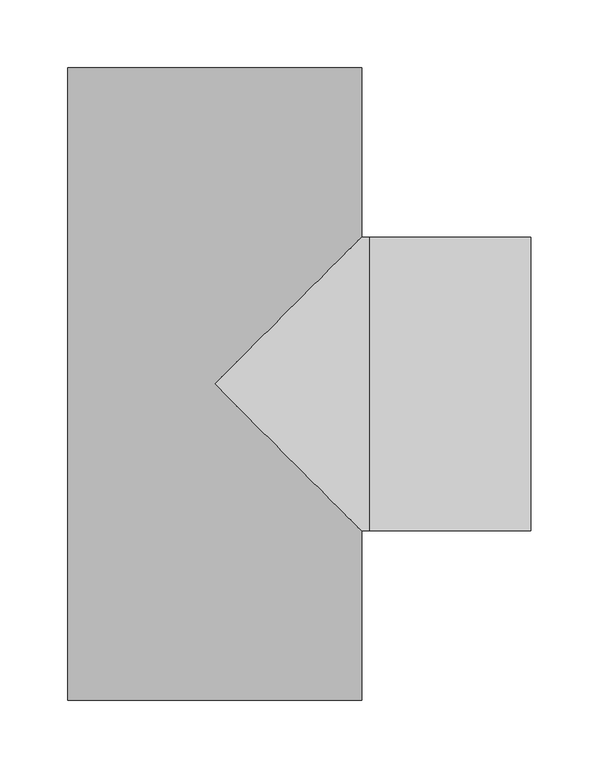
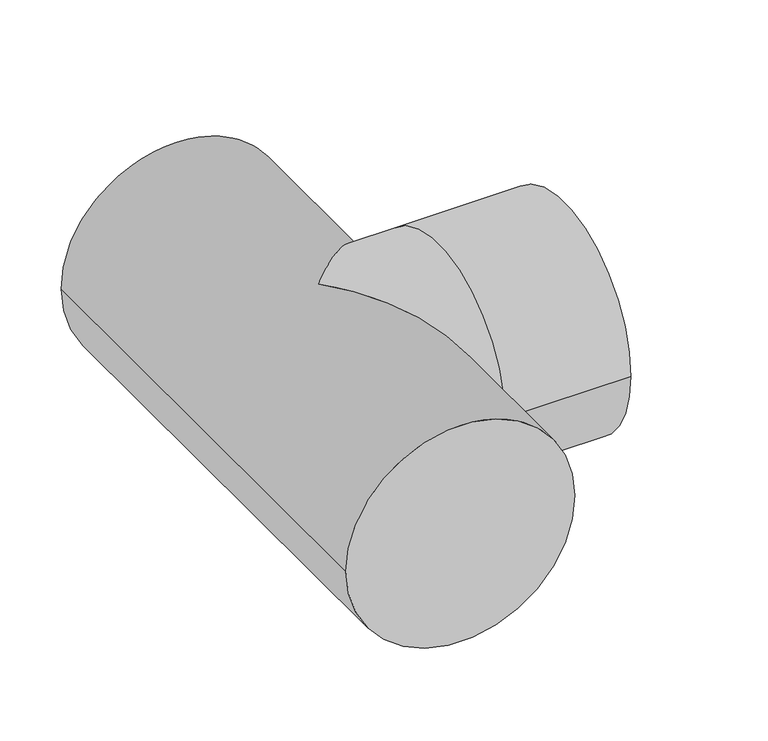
"""IFC4 building model written with IfcOpenShell, lengths in millimetres: pipe fitting geometry, 01051003 : Tê a 90º."""

from ifc_helpers import new_model, si_unit, frame, origin, place, context, project, spatial, circle_curve, ellipse_curve, source, transform, mapped, element, save
from ifc_brep_helpers import plane_surface, cylinder_surface, advanced_brep


def pipe_fitting_f19a0514(model_context):
    return source(origin(), model_context, "Body", "AdvancedBrep", [
        advanced_brep(
        [(-108.3, 233.0, 0.0), (108.3, 233.0, 0.0), (-108.3, -233.0, 0.0), (108.3, -233.0, 0.0), (108.3, -108.3, 0.0), (0.0, 0.0, 108.3), (108.3, 108.3, 0.0), (0.0, 0.0, -108.3), (233.0, 108.3, 0.0), (233.0, -108.3, 0.0), (114.0, -108.3, 0.0), (114.0, 108.3, 0.0)],
        [
            (0, 1, circle_curve(frame((0.0, 233.0, 0.0), z_axis=(0.0, 1.0, 0.0), x_axis=(1.0, 0.0, 0.0)), 108.3)),
            (1, 0, circle_curve(frame((0.0, 233.0, 0.0), z_axis=(0.0, 1.0, 0.0), x_axis=(1.0, 0.0, 0.0)), 108.3)),
            (2, 3, circle_curve(frame((0.0, -233.0, 0.0), z_axis=(0.0, -1.0, 0.0), x_axis=(1.0, 0.0, 0.0)), 108.3)),
            (3, 2, circle_curve(frame((0.0, -233.0, 0.0), z_axis=(0.0, -1.0, 0.0), x_axis=(1.0, 0.0, 0.0)), 108.3)),
            (0, 2),
            (3, 4),
            (4, 5, ellipse_curve(frame((0.0, 0.0, 0.0), z_axis=(-0.7071067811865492, -0.7071067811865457, 0.0), x_axis=(-0.7071067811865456, 0.7071067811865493, 0.0)), 153.1593288, 108.3)),
            (5, 6, ellipse_curve(frame((0.0, 0.0, 0.0), z_axis=(-0.7071067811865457, 0.7071067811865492, 0.0), x_axis=(0.7071067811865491, 0.7071067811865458, 0.0)), 153.1593288, 108.3)),
            (6, 1),
            (6, 7, ellipse_curve(frame((0.0, 0.0, 0.0), z_axis=(-0.7071067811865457, 0.7071067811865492, 0.0), x_axis=(0.7071067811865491, 0.7071067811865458, 0.0)), 153.1593288, 108.3)),
            (7, 4, ellipse_curve(frame((0.0, 0.0, 0.0), z_axis=(-0.7071067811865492, -0.7071067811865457, 0.0), x_axis=(-0.7071067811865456, 0.7071067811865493, 0.0)), 153.1593288, 108.3)),
            (8, 9, circle_curve(frame((233.0, 0.0, 0.0), z_axis=(1.0, 0.0, 0.0), x_axis=(0.0, -1.0, 0.0)), 108.3)),
            (9, 8, circle_curve(frame((233.0, 0.0, 0.0), z_axis=(1.0, 0.0, 0.0), x_axis=(0.0, -1.0, 0.0)), 108.3)),
            (10, 11, circle_curve(frame((114.0, 0.0, 0.0), z_axis=(-1.0, 0.0, 0.0), x_axis=(0.0, -1.0, 0.0)), 108.3)),
            (11, 6),
            (4, 10),
            (11, 10, circle_curve(frame((114.0, 0.0, 0.0), z_axis=(-1.0, 0.0, 0.0), x_axis=(0.0, -1.0, 0.0)), 108.3)),
            (8, 11),
            (10, 9),
        ],
        [
            plane_surface(frame((0.0, 233.0, 0.0), z_axis=(0.0, 1.0, 0.0), x_axis=(0.0, 0.0, 1.0))),
            plane_surface(frame((0.0, -233.0, 0.0), z_axis=(0.0, -1.0, 0.0), x_axis=(0.0, 0.0, 1.0))),
            cylinder_surface(frame((0.0, 233.0, 0.0), z_axis=(0.0, 1.0, 0.0), x_axis=(1.0, 0.0, 0.0)), 108.3),
            plane_surface(frame((233.0, 0.0, 0.0), z_axis=(1.0, 0.0, 0.0), x_axis=(0.0, 0.0, 1.0))),
            cylinder_surface(frame((114.0, 0.0, 0.0), z_axis=(1.0, 0.0, 0.0), x_axis=(0.0, -1.0, 0.0)), 108.3),
            cylinder_surface(frame((233.0, 0.0, 0.0), z_axis=(1.0, 0.0, 0.0), x_axis=(0.0, -1.0, 0.0)), 108.3),
        ],
        [
            (0, [[1, 2]]),
            (1, [[3, 4]]),
            (2, [[-1, 5, -4, 6, 7, 8, 9]]),
            (2, [[-2, -9, 10, 11, -6, -3, -5]]),
            (3, [[12, 13]]),
            (4, [[14, 15, -8, -7, 16]]),
            (4, [[17, -16, -11, -10, -15]]),
            (5, [[-12, 18, -14, 19]]),
            (5, [[-13, -19, -17, -18]]),
        ],
    ),
    ])


if __name__ == "__main__":
    model = new_model("IFC4")
    model_context = context("Model", 3, world=origin())
    ifc_project = project(units=[si_unit("LENGTHUNIT", "METRE", prefix="MILLI")], contexts=[model_context])
    site = spatial("IfcSite", under=ifc_project)
    building = spatial("IfcBuilding", under=site)
    placement = place(None, origin())
    pipe_fitting_shape = pipe_fitting_f19a0514(model_context)
    element("IfcPipeFitting", 1, ObjectType="01051003 : Tê a 90º", at=placement, inside=building, context=model_context, shape_type="MappedRepresentation", body=[
        mapped(pipe_fitting_shape, transform((0.0, 0.0, 0.0), x_axis=(1.0, 0.0, 0.0), y_axis=(0.0, 1.0, 0.0), z_axis=(0.0, 0.0, 1.0))),
    ])
    save(model, "model.ifc")
